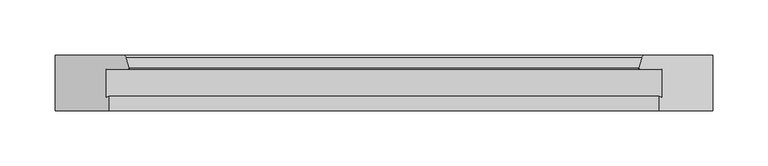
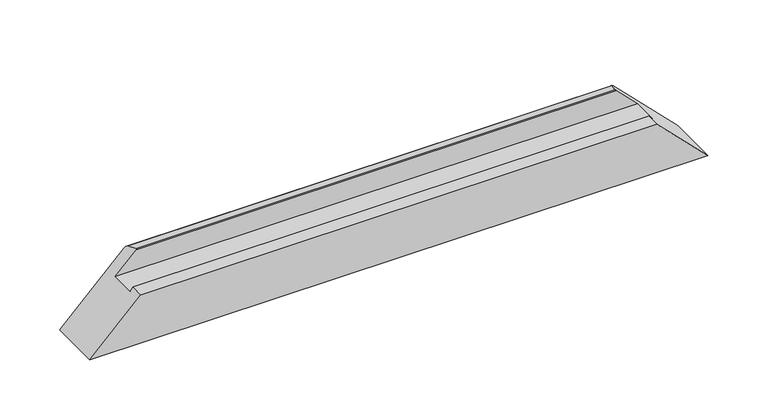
"""IFC4 building model written with IfcOpenShell, lengths in millimetres: proxy geometry, Weiku - Montante - Caixilho 02.2.01.005 : Weiku - Montante - Caixilho 02.2.01.005."""

from ifc_helpers import new_model, si_unit, frame, origin, place, context, project, spatial, ellipse_curve, source, transform, mapped, element, save
from ifc_brep_helpers import plane_surface, cylinder_surface, advanced_brep


def generic_models_8fd3f50d(model_context):
    return source(origin(), model_context, "Body", "AdvancedBrep", [
        advanced_brep(
        [(-251.5, -12.5, 46.0), (251.5, -12.5, 46.0), (231.3909676, -12.5, 66.1090324), (-231.3909676, -12.5, 66.1090324), (-251.5, -37.8314286, 46.0), (251.5, -37.8314286, 46.0), (-248.5, -37.027581, 49.0), (248.5, -37.027581, 49.0), (-248.5, -50.0, 49.0), (248.5, -50.0, 49.0), (297.5, -50.0, 0.0), (-297.5, -50.0, 0.0), (-297.5, 0.0, 0.0), (297.5, 0.0, 0.0), (-235.9997332, 0.0, 61.5002668), (235.9997332, 0.0, 61.5002668), (-230.618227, -11.4929448, 66.881773), (230.618227, -11.4929448, 66.881773), (233.1019557, -2.2235429, 64.3980443), (-233.1019557, -2.2235429, 64.3980443)],
        [
            (0, 1),
            (1, 2),
            (2, 3),
            (3, 0),
            (4, 5),
            (5, 1),
            (0, 4),
            (6, 7),
            (7, 5),
            (4, 6),
            (8, 9),
            (9, 7),
            (6, 8),
            (10, 9),
            (8, 11),
            (11, 10),
            (11, 12),
            (12, 13),
            (13, 10),
            (12, 14),
            (14, 15),
            (15, 13),
            (16, 17),
            (17, 18),
            (18, 19),
            (19, 16),
            (3, 16, ellipse_curve(frame((-231.3909676, -11.7, 66.1090324), z_axis=(-0.707106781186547, 0.0, 0.707106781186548), x_axis=(-0.7071067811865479, 0.0, -0.707106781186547)), 1.1313708, 0.8)),
            (19, 14, ellipse_curve(frame((-235.9997332, -3.0, 61.5002668), z_axis=(-0.707106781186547, 0.0, 0.707106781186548), x_axis=(-0.7071067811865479, 0.0, -0.707106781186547)), 4.2426407, 3.0)),
            (15, 18, ellipse_curve(frame((235.9997332, -3.0, 61.5002668), z_axis=(0.707106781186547, 0.0, 0.7071067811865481), x_axis=(-0.7071067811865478, 0.0, 0.707106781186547)), 4.2426407, 3.0)),
            (17, 2, ellipse_curve(frame((231.3909676, -11.7, 66.1090324), z_axis=(0.707106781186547, 0.0, 0.7071067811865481), x_axis=(-0.7071067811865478, 0.0, 0.707106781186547)), 1.1313708, 0.8)),
        ],
        [
            plane_surface(frame((-297.5, -12.5, 66.1090324), z_axis=(0.0, -1.0, 0.0), x_axis=(1.0, 0.0, 0.0))),
            plane_surface(frame((-297.5, -12.5, 46.0), z_axis=(0.0, 0.0, 1.0), x_axis=(1.0, 0.0, 0.0))),
            plane_surface(frame((-297.5, -37.8314286, 46.0), z_axis=(0.0, 0.9659258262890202, -0.2588190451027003), x_axis=(1.0, 0.0, 0.0))),
            plane_surface(frame((-297.5, -37.027581, 49.0), z_axis=(0.0, 0.0, 1.0), x_axis=(1.0, 0.0, 0.0))),
            plane_surface(frame((-297.5, -50.0, 49.0), z_axis=(0.0, -1.0, 0.0), x_axis=(1.0, 0.0, 0.0))),
            plane_surface(frame((-297.5, -50.0, 0.0), z_axis=(0.0, 0.0, -1.0), x_axis=(1.0, 0.0, 0.0))),
            plane_surface(frame((-297.5, 0.0, 0.0), z_axis=(0.0, 1.0, 0.0), x_axis=(1.0, 0.0, 0.0))),
            plane_surface(frame((-297.5, -2.2235429, 64.3980443), z_axis=(0.0, 0.2588190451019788, 0.9659258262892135), x_axis=(1.0, 0.0, 0.0))),
            plane_surface(frame((-367.5, 15.0, -70.0), z_axis=(-0.707106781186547, 0.0, 0.707106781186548), x_axis=(0.0, -1.0, 0.0))),
            plane_surface(frame((227.5, 15.0, 70.0), z_axis=(0.707106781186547, 0.0, 0.7071067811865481), x_axis=(0.0, -1.0, 0.0))),
            cylinder_surface(frame((-297.5, -11.7, 66.1090324), z_axis=(-1.0, 0.0, 0.0), x_axis=(0.0, -1.0, 0.0)), 0.8),
            cylinder_surface(frame((-297.5, -3.0, 61.5002668), z_axis=(-1.0, 0.0, 0.0), x_axis=(0.0, -1.0, 0.0)), 3.0),
        ],
        [
            (0, [[1, 2, 3, 4]]),
            (1, [[5, 6, -1, 7]]),
            (2, [[8, 9, -5, 10]]),
            (3, [[11, 12, -8, 13]]),
            (4, [[14, -11, 15, 16]]),
            (5, [[17, 18, 19, -16]]),
            (6, [[20, 21, 22, -18]]),
            (7, [[23, 24, 25, 26]]),
            (8, [[27, -26, 28, -20, -17, -15, -13, -10, -7, -4]]),
            (9, [[-6, -9, -12, -14, -19, -22, 29, -24, 30, -2]]),
            (10, [[-3, -30, -23, -27]]),
            (11, [[-25, -29, -21, -28]]),
        ],
    ),
    ])


if __name__ == "__main__":
    model = new_model("IFC4")
    model_context = context("Model", 3, world=origin())
    ifc_project = project(units=[si_unit("LENGTHUNIT", "METRE", prefix="MILLI")], contexts=[model_context])
    site = spatial("IfcSite", under=ifc_project)
    building = spatial("IfcBuilding", under=site)
    placement = place(None, origin())
    generic_models_shape = generic_models_8fd3f50d(model_context)
    element("IfcBuildingElementProxy", 1, Name="Weiku - Montante - Caixilho 02.2.01.005 : Weiku - Montante - Caixilho 02.2.01.005", ObjectType="Weiku - Montante - Caixilho 02.2.01.005 : Weiku - Montante - Caixilho 02.2.01.005", at=placement, inside=building, context=model_context, shape_type="MappedRepresentation", body=[
        mapped(generic_models_shape, transform((0.0, 0.0, 0.0), x_axis=(1.0, 0.0, 0.0), y_axis=(0.0, 1.0, 0.0), z_axis=(0.0, 0.0, 1.0))),
    ])
    save(model, "model.ifc")
